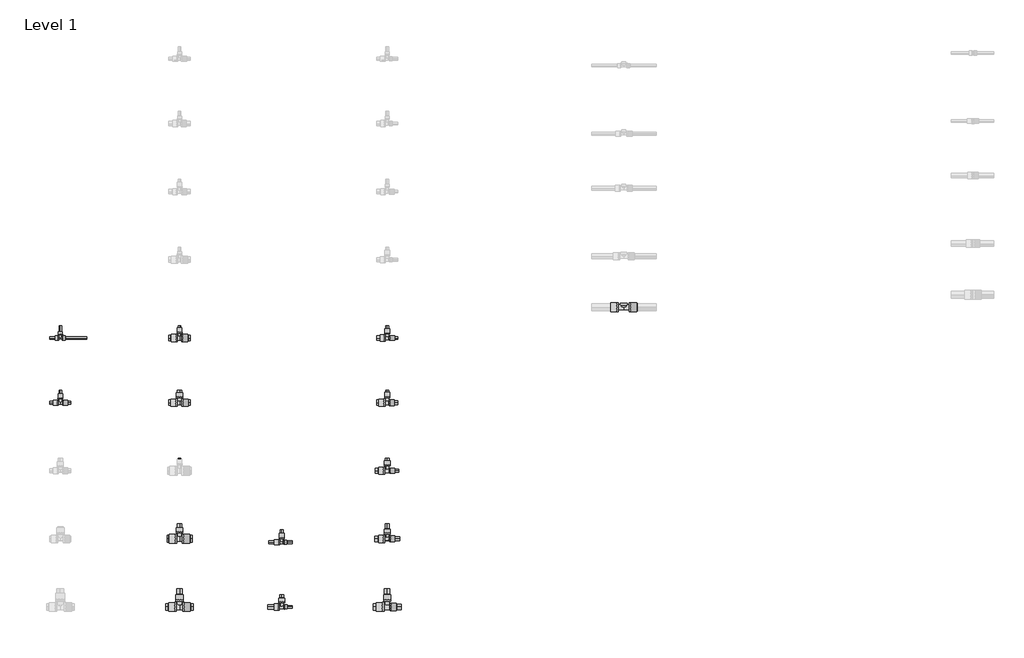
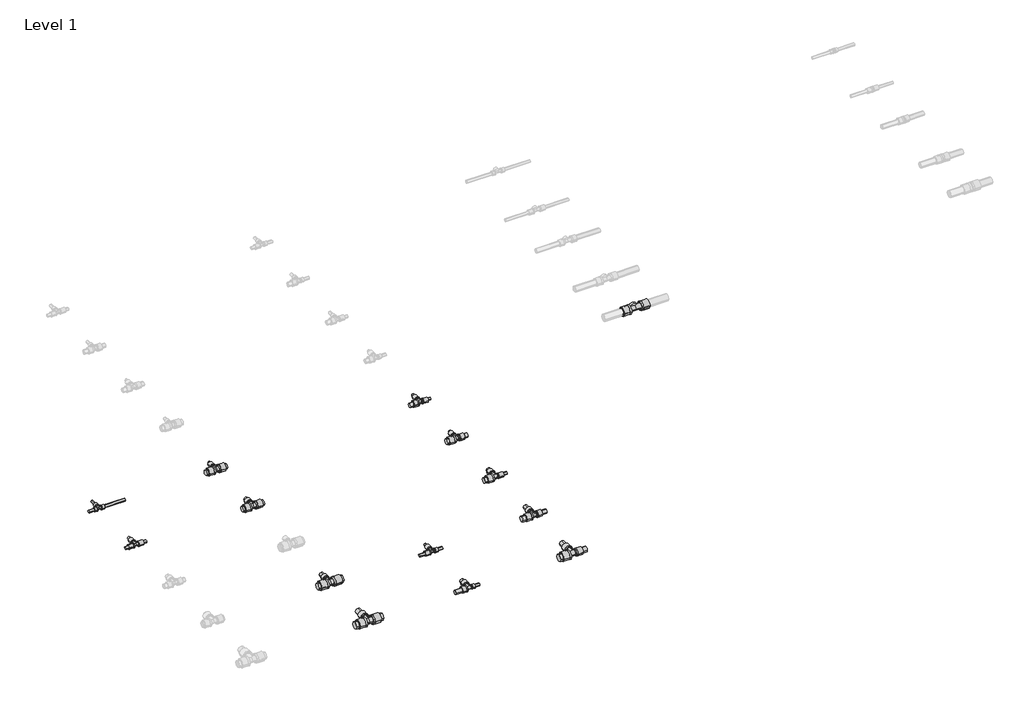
# One storey, part 19 of 78: 40 pipe segments, 14 pipe fittings.
"""IFC4 building model written with IfcOpenShell, lengths in millimetres."""

from ifc_helpers import new_model, si_unit, point, frame, frame_2d, origin, place, context, project, spatial, circle_curve, trimmed, segment, composite_curve, outline, extrude, transform, mapped, element, save
from components import pipe_fitting_d1609a9c, pipe_fitting_bded02bd, pipe_fitting_7435f538, pipe_fitting_b40a3e3c, pipe_fitting_15165f03, pipe_fitting_7e3be5b8, pipe_fitting_19df1a9e, pipe_fitting_16730f07, pipe_fitting_5d5decb5, pipe_fitting_f2600fd0, pipe_fitting_8d489ee2, pipe_fitting_c4e8b4db, pipe_fitting_757463f1, pipe_fitting_00caae07

model = new_model("IFC4")

# Units and contexts
model_context = context("Model", 3, world=origin())
ifc_project = project(units=[si_unit("LENGTHUNIT", "METRE", prefix="MILLI")], contexts=[model_context])

# Site, building, storey
site = spatial("IfcSite", under=ifc_project)
building = spatial("IfcBuilding", under=site)
storey = spatial("IfcBuildingStorey", under=building, Name="Level 1", Elevation=0.0)

# Pipe fittings
placement = place(None, origin())
pipe_fitting_shape = pipe_fitting_d1609a9c(model_context)
element("IfcPipeFitting", 1, ObjectType="FASTLOC_T-piece_LX : FSL T-Piece LX IT", at=placement, inside=storey, context=model_context, shape_type="MappedRepresentation", body=[
    mapped(pipe_fitting_shape, transform((24126.7498072, -20380.2405791, 0.0), x_axis=(1.0, 0.0, 0.0), y_axis=(0.0, 1.0, 0.0), z_axis=(0.0, 0.0, 1.0))),
])
pipe_fitting_2_shape = pipe_fitting_bded02bd(model_context)
element("IfcPipeFitting", 2, ObjectType="FASTLOC_T-piece_LX : FSL T-Piece LX IT", at=placement, inside=storey, context=model_context, shape_type="MappedRepresentation", body=[
    mapped(pipe_fitting_2_shape, transform((24126.7498072, -20760.2405791, 0.0), x_axis=(1.0, 0.0, 0.0), y_axis=(0.0, 1.0, 0.0), z_axis=(0.0, 0.0, 1.0))),
])
pipe_fitting_3_shape = pipe_fitting_7435f538(model_context)
element("IfcPipeFitting", 3, ObjectType="FASTLOC_T-piece_LX : FSL T-Piece LX IT", at=placement, inside=storey, context=model_context, shape_type="MappedRepresentation", body=[
    mapped(pipe_fitting_3_shape, transform((24826.7498072, -20380.2405791, 0.0), x_axis=(1.0, 0.0, 0.0), y_axis=(0.0, 1.0, 0.0), z_axis=(0.0, 0.0, 1.0))),
])
pipe_fitting_4_shape = pipe_fitting_b40a3e3c(model_context)
element("IfcPipeFitting", 4, ObjectType="FASTLOC_T-piece_LX : FSL T-Piece LX IT", at=placement, inside=storey, context=model_context, shape_type="MappedRepresentation", body=[
    mapped(pipe_fitting_4_shape, transform((24826.7498072, -20760.2405791, 0.0), x_axis=(1.0, 0.0, 0.0), y_axis=(0.0, 1.0, 0.0), z_axis=(0.0, 0.0, 1.0))),
])
pipe_fitting_5_shape = pipe_fitting_15165f03(model_context)
element("IfcPipeFitting", 5, ObjectType="FASTLOC_T-piece_LX : FSL T-Piece LX IT", at=placement, inside=storey, context=model_context, shape_type="MappedRepresentation", body=[
    mapped(pipe_fitting_5_shape, transform((24826.7498072, -21560.2405791, 0.0), x_axis=(1.0, 0.0, 0.0), y_axis=(0.0, 1.0, 0.0), z_axis=(0.0, 0.0, 1.0))),
])
pipe_fitting_6_shape = pipe_fitting_7e3be5b8(model_context)
element("IfcPipeFitting", 6, ObjectType="FASTLOC_T-piece_LX : FSL T-Piece LX IT", at=placement, inside=storey, context=model_context, shape_type="MappedRepresentation", body=[
    mapped(pipe_fitting_6_shape, transform((24826.7498072, -21960.2405791, 0.0), x_axis=(1.0, 0.0, 0.0), y_axis=(0.0, 1.0, 0.0), z_axis=(0.0, 0.0, 1.0))),
])
pipe_fitting_7_shape = pipe_fitting_19df1a9e(model_context)
element("IfcPipeFitting", 7, ObjectType="FASTLOC_T-piece_LX : FSL T-Piece LX IT", at=placement, inside=storey, context=model_context, shape_type="MappedRepresentation", body=[
    mapped(pipe_fitting_7_shape, transform((25426.7498072, -21580.2405791, 0.0), x_axis=(1.0, 0.0, 0.0), y_axis=(0.0, 1.0, 0.0), z_axis=(0.0, 0.0, 1.0))),
])
pipe_fitting_8_shape = pipe_fitting_16730f07(model_context)
element("IfcPipeFitting", 8, ObjectType="FASTLOC_T-piece_LX : FSL T-Piece LX IT", at=placement, inside=storey, context=model_context, shape_type="MappedRepresentation", body=[
    mapped(pipe_fitting_8_shape, transform((25426.7498072, -21960.2405791, 0.0), x_axis=(1.0, 0.0, 0.0), y_axis=(0.0, 1.0, 0.0), z_axis=(0.0, 0.0, 1.0))),
])
pipe_fitting_9_shape = pipe_fitting_5d5decb5(model_context)
element("IfcPipeFitting", 9, ObjectType="FASTLOC_T-piece_LX : FSL T-Piece LX IT", at=placement, inside=storey, context=model_context, shape_type="MappedRepresentation", body=[
    mapped(pipe_fitting_9_shape, transform((26046.7498072, -20380.2405791, 0.0), x_axis=(1.0, 0.0, 0.0), y_axis=(0.0, 1.0, 0.0), z_axis=(0.0, 0.0, 1.0))),
])
pipe_fitting_10_shape = pipe_fitting_f2600fd0(model_context)
element("IfcPipeFitting", 10, ObjectType="FASTLOC_T-piece_LX : FSL T-Piece LX IT", at=placement, inside=storey, context=model_context, shape_type="MappedRepresentation", body=[
    mapped(pipe_fitting_10_shape, transform((26046.7498072, -20760.2405791, 0.0), x_axis=(1.0, 0.0, 0.0), y_axis=(0.0, 1.0, 0.0), z_axis=(0.0, 0.0, 1.0))),
])
pipe_fitting_11_shape = pipe_fitting_8d489ee2(model_context)
element("IfcPipeFitting", 11, ObjectType="FASTLOC_T-piece_LX : FSL T-Piece LX IT", at=placement, inside=storey, context=model_context, shape_type="MappedRepresentation", body=[
    mapped(pipe_fitting_11_shape, transform((26046.7498072, -21160.2405791, 0.0), x_axis=(1.0, 0.0, 0.0), y_axis=(0.0, 1.0, 0.0), z_axis=(0.0, 0.0, 1.0))),
])
pipe_fitting_12_shape = pipe_fitting_c4e8b4db(model_context)
element("IfcPipeFitting", 12, ObjectType="FASTLOC_T-piece_LX : FSL T-Piece LX IT", at=placement, inside=storey, context=model_context, shape_type="MappedRepresentation", body=[
    mapped(pipe_fitting_12_shape, transform((26046.7498072, -21560.2405791, 0.0), x_axis=(1.0, 0.0, 0.0), y_axis=(0.0, 1.0, 0.0), z_axis=(0.0, 0.0, 1.0))),
])
pipe_fitting_13_shape = pipe_fitting_757463f1(model_context)
element("IfcPipeFitting", 13, ObjectType="FASTLOC_T-piece_LX : FSL T-Piece LX IT", at=placement, inside=storey, context=model_context, shape_type="MappedRepresentation", body=[
    mapped(pipe_fitting_13_shape, transform((26046.7498072, -21960.2405791, 0.0), x_axis=(1.0, 0.0, 0.0), y_axis=(0.0, 1.0, 0.0), z_axis=(0.0, 0.0, 1.0))),
])
pipe_fitting_14_shape = pipe_fitting_00caae07(model_context)
element("IfcPipeFitting", 14, ObjectType="FASTLOC_T-piece internal thread LX : FSL T thread LX IT", at=placement, inside=storey, context=model_context, shape_type="MappedRepresentation", body=[
    mapped(pipe_fitting_14_shape, transform((27436.609585, -20199.8272875, 0.0), x_axis=(1.0, 0.0, 0.0), y_axis=(0.0, 1.0, 0.0), z_axis=(0.0, 0.0, 1.0))),
])

# Pipe segments
element("IfcPipeSegment", 15, ObjectType="FASTLOC LX ML IT bar", at=placement, inside=storey, context=model_context, shape_type="SweptSolid", body=[
    extrude(outline(composite_curve([segment(trimmed(circle_curve(frame_2d((-20380.2405791, 0.0)), 8.0), [point((-20372.2405791, 0.0))], [point((-20380.2405791, -8.0))], False, "CARTESIAN"), True, "CONTINUOUS"), segment(trimmed(circle_curve(frame_2d((-20380.2405791, 0.0)), 8.0), [point((-20380.2405791, -8.0))], [point((-20388.2405791, 0.0))], False, "CARTESIAN"), True, "CONTINUOUS"), segment(trimmed(circle_curve(frame_2d((-20380.2405791, 0.0)), 8.0), [point((-20388.2405791, 0.0))], [point((-20380.2405791, 8.0))], False, "CARTESIAN"), True, "CONTINUOUS"), segment(trimmed(circle_curve(frame_2d((-20380.2405791, 0.0)), 8.0), [point((-20380.2405791, 8.0))], [point((-20372.2405791, 0.0))], False, "CARTESIAN"), True, "CONTINUOUS")], self_intersect=False)), frame((24064.7498072, 0.0, 0.0), z_axis=(1.0, 0.0, 0.0), x_axis=(0.0, 1.0, 0.0)), (0.0, 0.0, 1.0), 47.0),
])
element("IfcPipeSegment", 16, ObjectType="FASTLOC LX ML IT bar", at=placement, inside=storey, context=model_context, shape_type="SweptSolid", body=[
    extrude(outline(composite_curve([segment(trimmed(circle_curve(frame_2d((0.0, 24126.7498072)), 8.0), [point((0.0, 24134.7498072))], [point((8.0, 24126.7498072))], False, "CARTESIAN"), True, "CONTINUOUS"), segment(trimmed(circle_curve(frame_2d((0.0, 24126.7498072)), 8.0), [point((8.0, 24126.7498072))], [point((0.0, 24118.7498072))], False, "CARTESIAN"), True, "CONTINUOUS"), segment(trimmed(circle_curve(frame_2d((0.0, 24126.7498072)), 8.0), [point((0.0, 24118.7498072))], [point((-8.0, 24126.7498072))], False, "CARTESIAN"), True, "CONTINUOUS"), segment(trimmed(circle_curve(frame_2d((0.0, 24126.7498072)), 8.0), [point((-8.0, 24126.7498072))], [point((0.0, 24134.7498072))], False, "CARTESIAN"), True, "CONTINUOUS")], self_intersect=False)), frame((0.0, -20358.1405791, 0.0), z_axis=(0.0, 1.0, 0.0), x_axis=(0.0, 0.0, 1.0)), (0.0, 0.0, 1.0), 50.2),
])
element("IfcPipeSegment", 17, ObjectType="FASTLOC LX ML IT bar", at=placement, inside=storey, context=model_context, shape_type="SweptSolid", body=[
    extrude(outline(composite_curve([segment(trimmed(circle_curve(frame_2d((-20760.2405791, 0.0)), 8.0), [point((-20768.2405791, 0.0))], [point((-20760.2405791, 8.0))], False, "CARTESIAN"), True, "CONTINUOUS"), segment(trimmed(circle_curve(frame_2d((-20760.2405791, 0.0)), 8.0), [point((-20760.2405791, 8.0))], [point((-20752.2405791, 0.0))], False, "CARTESIAN"), True, "CONTINUOUS"), segment(trimmed(circle_curve(frame_2d((-20760.2405791, 0.0)), 8.0), [point((-20752.2405791, 0.0))], [point((-20760.2405791, -8.0))], False, "CARTESIAN"), True, "CONTINUOUS"), segment(trimmed(circle_curve(frame_2d((-20760.2405791, 0.0)), 8.0), [point((-20760.2405791, -8.0))], [point((-20768.2405791, 0.0))], False, "CARTESIAN"), True, "CONTINUOUS")], self_intersect=False)), frame((24143.9498072, 0.0, 0.0), z_axis=(1.0, 0.0, 0.0), x_axis=(0.0, 1.0, 0.0)), (0.0, 0.0, 1.0), 44.8),
])
element("IfcPipeSegment", 18, ObjectType="FASTLOC LX ML IT bar", at=placement, inside=storey, context=model_context, shape_type="SweptSolid", body=[
    extrude(outline(composite_curve([segment(trimmed(circle_curve(frame_2d((-20760.2405791, 0.0)), 8.0), [point((-20752.2405791, 0.0))], [point((-20760.2405791, -8.0))], False, "CARTESIAN"), True, "CONTINUOUS"), segment(trimmed(circle_curve(frame_2d((-20760.2405791, 0.0)), 8.0), [point((-20760.2405791, -8.0))], [point((-20768.2405791, 0.0))], False, "CARTESIAN"), True, "CONTINUOUS"), segment(trimmed(circle_curve(frame_2d((-20760.2405791, 0.0)), 8.0), [point((-20768.2405791, 0.0))], [point((-20760.2405791, 8.0))], False, "CARTESIAN"), True, "CONTINUOUS"), segment(trimmed(circle_curve(frame_2d((-20760.2405791, 0.0)), 8.0), [point((-20760.2405791, 8.0))], [point((-20752.2405791, 0.0))], False, "CARTESIAN"), True, "CONTINUOUS")], self_intersect=False)), frame((24064.7498072, 0.0, 0.0), z_axis=(1.0, 0.0, 0.0), x_axis=(0.0, 1.0, 0.0)), (0.0, 0.0, 1.0), 44.8),
])
element("IfcPipeSegment", 19, ObjectType="FASTLOC LX ML IT bar", at=placement, inside=storey, context=model_context, shape_type="SweptSolid", body=[
    extrude(outline(composite_curve([segment(trimmed(circle_curve(frame_2d((0.0, 24126.7498072)), 8.0), [point((0.0, 24134.7498072))], [point((8.0, 24126.7498072))], False, "CARTESIAN"), True, "CONTINUOUS"), segment(trimmed(circle_curve(frame_2d((0.0, 24126.7498072)), 8.0), [point((8.0, 24126.7498072))], [point((0.0, 24118.7498072))], False, "CARTESIAN"), True, "CONTINUOUS"), segment(trimmed(circle_curve(frame_2d((0.0, 24126.7498072)), 8.0), [point((0.0, 24118.7498072))], [point((-8.0, 24126.7498072))], False, "CARTESIAN"), True, "CONTINUOUS"), segment(trimmed(circle_curve(frame_2d((0.0, 24126.7498072)), 8.0), [point((-8.0, 24126.7498072))], [point((0.0, 24134.7498072))], False, "CARTESIAN"), True, "CONTINUOUS")], self_intersect=False)), frame((0.0, -20733.8405791, 0.0), z_axis=(0.0, 1.0, 0.0), x_axis=(0.0, 0.0, 1.0)), (0.0, 0.0, 1.0), 45.9),
])
element("IfcPipeSegment", 20, ObjectType="FASTLOC LX ML IT bar", at=placement, inside=storey, context=model_context, shape_type="SweptSolid", body=[
    extrude(outline(composite_curve([segment(trimmed(circle_curve(frame_2d((-20380.2405791, 0.0)), 16.0), [point((-20396.2405791, 0.0))], [point((-20380.2405791, 16.0))], False, "CARTESIAN"), True, "CONTINUOUS"), segment(trimmed(circle_curve(frame_2d((-20380.2405791, 0.0)), 16.0), [point((-20380.2405791, 16.0))], [point((-20364.2405791, 0.0))], False, "CARTESIAN"), True, "CONTINUOUS"), segment(trimmed(circle_curve(frame_2d((-20380.2405791, 0.0)), 16.0), [point((-20364.2405791, 0.0))], [point((-20380.2405791, -16.0))], False, "CARTESIAN"), True, "CONTINUOUS"), segment(trimmed(circle_curve(frame_2d((-20380.2405791, 0.0)), 16.0), [point((-20380.2405791, -16.0))], [point((-20396.2405791, 0.0))], False, "CARTESIAN"), True, "CONTINUOUS")], self_intersect=False)), frame((24846.9498072, 0.0, 0.0), z_axis=(1.0, 0.0, 0.0), x_axis=(0.0, 1.0, 0.0)), (0.0, 0.0, 1.0), 41.8),
])
element("IfcPipeSegment", 21, ObjectType="FASTLOC LX ML IT bar", at=placement, inside=storey, context=model_context, shape_type="SweptSolid", body=[
    extrude(outline(composite_curve([segment(trimmed(circle_curve(frame_2d((-20380.2405791, 0.0)), 16.0), [point((-20364.2405791, 0.0))], [point((-20380.2405791, -16.0))], False, "CARTESIAN"), True, "CONTINUOUS"), segment(trimmed(circle_curve(frame_2d((-20380.2405791, 0.0)), 16.0), [point((-20380.2405791, -16.0))], [point((-20396.2405791, 0.0))], False, "CARTESIAN"), True, "CONTINUOUS"), segment(trimmed(circle_curve(frame_2d((-20380.2405791, 0.0)), 16.0), [point((-20396.2405791, 0.0))], [point((-20380.2405791, 16.0))], False, "CARTESIAN"), True, "CONTINUOUS"), segment(trimmed(circle_curve(frame_2d((-20380.2405791, 0.0)), 16.0), [point((-20380.2405791, 16.0))], [point((-20364.2405791, 0.0))], False, "CARTESIAN"), True, "CONTINUOUS")], self_intersect=False)), frame((24764.7498072, 0.0, 0.0), z_axis=(1.0, 0.0, 0.0), x_axis=(0.0, 1.0, 0.0)), (0.0, 0.0, 1.0), 41.8),
])
element("IfcPipeSegment", 22, ObjectType="FASTLOC LX ML IT bar", at=placement, inside=storey, context=model_context, shape_type="SweptSolid", body=[
    extrude(outline(composite_curve([segment(trimmed(circle_curve(frame_2d((0.0, 24826.7498072)), 8.0), [point((0.0, 24834.7498072))], [point((8.0, 24826.7498072))], False, "CARTESIAN"), True, "CONTINUOUS"), segment(trimmed(circle_curve(frame_2d((0.0, 24826.7498072)), 8.0), [point((8.0, 24826.7498072))], [point((0.0, 24818.7498072))], False, "CARTESIAN"), True, "CONTINUOUS"), segment(trimmed(circle_curve(frame_2d((0.0, 24826.7498072)), 8.0), [point((0.0, 24818.7498072))], [point((-8.0, 24826.7498072))], False, "CARTESIAN"), True, "CONTINUOUS"), segment(trimmed(circle_curve(frame_2d((0.0, 24826.7498072)), 8.0), [point((-8.0, 24826.7498072))], [point((0.0, 24834.7498072))], False, "CARTESIAN"), True, "CONTINUOUS")], self_intersect=False)), frame((0.0, -20346.2405791, 0.0), z_axis=(0.0, 1.0, 0.0), x_axis=(0.0, 0.0, 1.0)), (0.0, 0.0, 1.0), 38.3),
])
element("IfcPipeSegment", 23, ObjectType="FASTLOC LX ML IT bar", at=placement, inside=storey, context=model_context, shape_type="SweptSolid", body=[
    extrude(outline(composite_curve([segment(trimmed(circle_curve(frame_2d((-20760.2405791, 0.0)), 16.0), [point((-20776.2405791, 0.0))], [point((-20760.2405791, 16.0))], False, "CARTESIAN"), True, "CONTINUOUS"), segment(trimmed(circle_curve(frame_2d((-20760.2405791, 0.0)), 16.0), [point((-20760.2405791, 16.0))], [point((-20744.2405791, 0.0))], False, "CARTESIAN"), True, "CONTINUOUS"), segment(trimmed(circle_curve(frame_2d((-20760.2405791, 0.0)), 16.0), [point((-20744.2405791, 0.0))], [point((-20760.2405791, -16.0))], False, "CARTESIAN"), True, "CONTINUOUS"), segment(trimmed(circle_curve(frame_2d((-20760.2405791, 0.0)), 16.0), [point((-20760.2405791, -16.0))], [point((-20776.2405791, 0.0))], False, "CARTESIAN"), True, "CONTINUOUS")], self_intersect=False)), frame((24848.7498072, 0.0, 0.0), z_axis=(1.0, 0.0, 0.0), x_axis=(0.0, 1.0, 0.0)), (0.0, 0.0, 1.0), 40.0),
])
element("IfcPipeSegment", 24, ObjectType="FASTLOC LX ML IT bar", at=placement, inside=storey, context=model_context, shape_type="SweptSolid", body=[
    extrude(outline(composite_curve([segment(trimmed(circle_curve(frame_2d((-20760.2405791, 0.0)), 16.0), [point((-20744.2405791, 0.0))], [point((-20760.2405791, -16.0))], False, "CARTESIAN"), True, "CONTINUOUS"), segment(trimmed(circle_curve(frame_2d((-20760.2405791, 0.0)), 16.0), [point((-20760.2405791, -16.0))], [point((-20776.2405791, 0.0))], False, "CARTESIAN"), True, "CONTINUOUS"), segment(trimmed(circle_curve(frame_2d((-20760.2405791, 0.0)), 16.0), [point((-20776.2405791, 0.0))], [point((-20760.2405791, 16.0))], False, "CARTESIAN"), True, "CONTINUOUS"), segment(trimmed(circle_curve(frame_2d((-20760.2405791, 0.0)), 16.0), [point((-20760.2405791, 16.0))], [point((-20744.2405791, 0.0))], False, "CARTESIAN"), True, "CONTINUOUS")], self_intersect=False)), frame((24764.7498072, 0.0, 0.0), z_axis=(1.0, 0.0, 0.0), x_axis=(0.0, 1.0, 0.0)), (0.0, 0.0, 1.0), 40.0),
])
element("IfcPipeSegment", 25, ObjectType="FASTLOC LX ML IT bar", at=placement, inside=storey, context=model_context, shape_type="SweptSolid", body=[
    extrude(outline(composite_curve([segment(trimmed(circle_curve(frame_2d((0.0, 24826.7498072)), 12.5), [point((0.0, 24839.2498072))], [point((12.5, 24826.7498072))], False, "CARTESIAN"), True, "CONTINUOUS"), segment(trimmed(circle_curve(frame_2d((0.0, 24826.7498072)), 12.5), [point((12.5, 24826.7498072))], [point((0.0, 24814.2498072))], False, "CARTESIAN"), True, "CONTINUOUS"), segment(trimmed(circle_curve(frame_2d((0.0, 24826.7498072)), 12.5), [point((0.0, 24814.2498072))], [point((-12.5, 24826.7498072))], False, "CARTESIAN"), True, "CONTINUOUS"), segment(trimmed(circle_curve(frame_2d((0.0, 24826.7498072)), 12.5), [point((-12.5, 24826.7498072))], [point((0.0, 24839.2498072))], False, "CARTESIAN"), True, "CONTINUOUS")], self_intersect=False)), frame((0.0, -20725.8405791, 0.0), z_axis=(0.0, 1.0, 0.0), x_axis=(0.0, 0.0, 1.0)), (0.0, 0.0, 1.0), 37.9),
])
element("IfcPipeSegment", 26, ObjectType="FASTLOC LX ML IT bar", at=placement, inside=storey, context=model_context, shape_type="SweptSolid", body=[
    extrude(outline(composite_curve([segment(trimmed(circle_curve(frame_2d((0.0, 24826.7498072)), 8.0), [point((0.0, 24834.7498072))], [point((8.0, 24826.7498072))], False, "CARTESIAN"), True, "CONTINUOUS"), segment(trimmed(circle_curve(frame_2d((0.0, 24826.7498072)), 8.0), [point((8.0, 24826.7498072))], [point((0.0, 24818.7498072))], False, "CARTESIAN"), True, "CONTINUOUS"), segment(trimmed(circle_curve(frame_2d((0.0, 24826.7498072)), 8.0), [point((0.0, 24818.7498072))], [point((-8.0, 24826.7498072))], False, "CARTESIAN"), True, "CONTINUOUS"), segment(trimmed(circle_curve(frame_2d((0.0, 24826.7498072)), 8.0), [point((-8.0, 24826.7498072))], [point((0.0, 24834.7498072))], False, "CARTESIAN"), True, "CONTINUOUS")], self_intersect=False)), frame((0.0, -21119.7405791, 0.0), z_axis=(0.0, 1.0, 0.0), x_axis=(0.0, 0.0, 1.0)), (0.0, 0.0, 1.0), 31.8),
])
element("IfcPipeSegment", 27, ObjectType="FASTLOC LX ML IT bar", at=placement, inside=storey, context=model_context, shape_type="SweptSolid", body=[
    extrude(outline(composite_curve([segment(trimmed(circle_curve(frame_2d((-21560.2405791, 0.0)), 20.0), [point((-21580.2405791, 0.0))], [point((-21560.2405791, 20.0))], False, "CARTESIAN"), True, "CONTINUOUS"), segment(trimmed(circle_curve(frame_2d((-21560.2405791, 0.0)), 20.0), [point((-21560.2405791, 20.0))], [point((-21540.2405791, 0.0))], False, "CARTESIAN"), True, "CONTINUOUS"), segment(trimmed(circle_curve(frame_2d((-21560.2405791, 0.0)), 20.0), [point((-21540.2405791, 0.0))], [point((-21560.2405791, -20.0))], False, "CARTESIAN"), True, "CONTINUOUS"), segment(trimmed(circle_curve(frame_2d((-21560.2405791, 0.0)), 20.0), [point((-21560.2405791, -20.0))], [point((-21580.2405791, 0.0))], False, "CARTESIAN"), True, "CONTINUOUS")], self_intersect=False)), frame((24852.5498072, 0.0, 0.0), z_axis=(1.0, 0.0, 0.0), x_axis=(0.0, 1.0, 0.0)), (0.0, 0.0, 1.0), 47.8),
])
element("IfcPipeSegment", 28, ObjectType="FASTLOC LX ML IT bar", at=placement, inside=storey, context=model_context, shape_type="SweptSolid", body=[
    extrude(outline(composite_curve([segment(trimmed(circle_curve(frame_2d((-21560.2405791, 0.0)), 20.0), [point((-21540.2405791, 0.0))], [point((-21560.2405791, -20.0))], False, "CARTESIAN"), True, "CONTINUOUS"), segment(trimmed(circle_curve(frame_2d((-21560.2405791, 0.0)), 20.0), [point((-21560.2405791, -20.0))], [point((-21580.2405791, 0.0))], False, "CARTESIAN"), True, "CONTINUOUS"), segment(trimmed(circle_curve(frame_2d((-21560.2405791, 0.0)), 20.0), [point((-21580.2405791, 0.0))], [point((-21560.2405791, 20.0))], False, "CARTESIAN"), True, "CONTINUOUS"), segment(trimmed(circle_curve(frame_2d((-21560.2405791, 0.0)), 20.0), [point((-21560.2405791, 20.0))], [point((-21540.2405791, 0.0))], False, "CARTESIAN"), True, "CONTINUOUS")], self_intersect=False)), frame((24753.1498072, 0.0, 0.0), z_axis=(1.0, 0.0, 0.0), x_axis=(0.0, 1.0, 0.0)), (0.0, 0.0, 1.0), 47.8),
])
element("IfcPipeSegment", 29, ObjectType="FASTLOC LX ML IT bar", at=placement, inside=storey, context=model_context, shape_type="SweptSolid", body=[
    extrude(outline(composite_curve([segment(trimmed(circle_curve(frame_2d((0.0, 24826.7498072)), 12.5), [point((0.0, 24839.2498072))], [point((12.5, 24826.7498072))], False, "CARTESIAN"), True, "CONTINUOUS"), segment(trimmed(circle_curve(frame_2d((0.0, 24826.7498072)), 12.5), [point((12.5, 24826.7498072))], [point((0.0, 24814.2498072))], False, "CARTESIAN"), True, "CONTINUOUS"), segment(trimmed(circle_curve(frame_2d((0.0, 24826.7498072)), 12.5), [point((0.0, 24814.2498072))], [point((-12.5, 24826.7498072))], False, "CARTESIAN"), True, "CONTINUOUS"), segment(trimmed(circle_curve(frame_2d((0.0, 24826.7498072)), 12.5), [point((-12.5, 24826.7498072))], [point((0.0, 24839.2498072))], False, "CARTESIAN"), True, "CONTINUOUS")], self_intersect=False)), frame((0.0, -21519.2405791, 0.0), z_axis=(0.0, 1.0, 0.0), x_axis=(0.0, 0.0, 1.0)), (0.0, 0.0, 1.0), 46.8),
])
element("IfcPipeSegment", 30, ObjectType="FASTLOC LX ML IT bar", at=placement, inside=storey, context=model_context, shape_type="SweptSolid", body=[
    extrude(outline(composite_curve([segment(trimmed(circle_curve(frame_2d((-21960.2405791, 0.0)), 20.0), [point((-21980.2405791, 0.0))], [point((-21960.2405791, 20.0))], False, "CARTESIAN"), True, "CONTINUOUS"), segment(trimmed(circle_curve(frame_2d((-21960.2405791, 0.0)), 20.0), [point((-21960.2405791, 20.0))], [point((-21940.2405791, 0.0))], False, "CARTESIAN"), True, "CONTINUOUS"), segment(trimmed(circle_curve(frame_2d((-21960.2405791, 0.0)), 20.0), [point((-21940.2405791, 0.0))], [point((-21960.2405791, -20.0))], False, "CARTESIAN"), True, "CONTINUOUS"), segment(trimmed(circle_curve(frame_2d((-21960.2405791, 0.0)), 20.0), [point((-21960.2405791, -20.0))], [point((-21980.2405791, 0.0))], False, "CARTESIAN"), True, "CONTINUOUS")], self_intersect=False)), frame((24855.3498072, 0.0, 0.0), z_axis=(1.0, 0.0, 0.0), x_axis=(0.0, 1.0, 0.0)), (0.0, 0.0, 1.0), 52.8),
])
element("IfcPipeSegment", 31, ObjectType="FASTLOC LX ML IT bar", at=placement, inside=storey, context=model_context, shape_type="SweptSolid", body=[
    extrude(outline(composite_curve([segment(trimmed(circle_curve(frame_2d((-21960.2405791, 0.0)), 20.0), [point((-21940.2405791, 0.0))], [point((-21960.2405791, -20.0))], False, "CARTESIAN"), True, "CONTINUOUS"), segment(trimmed(circle_curve(frame_2d((-21960.2405791, 0.0)), 20.0), [point((-21960.2405791, -20.0))], [point((-21980.2405791, 0.0))], False, "CARTESIAN"), True, "CONTINUOUS"), segment(trimmed(circle_curve(frame_2d((-21960.2405791, 0.0)), 20.0), [point((-21980.2405791, 0.0))], [point((-21960.2405791, 20.0))], False, "CARTESIAN"), True, "CONTINUOUS"), segment(trimmed(circle_curve(frame_2d((-21960.2405791, 0.0)), 20.0), [point((-21960.2405791, 20.0))], [point((-21940.2405791, 0.0))], False, "CARTESIAN"), True, "CONTINUOUS")], self_intersect=False)), frame((24745.3498072, 0.0, 0.0), z_axis=(1.0, 0.0, 0.0), x_axis=(0.0, 1.0, 0.0)), (0.0, 0.0, 1.0), 52.8),
])
element("IfcPipeSegment", 32, ObjectType="FASTLOC LX ML IT bar", at=placement, inside=storey, context=model_context, shape_type="SweptSolid", body=[
    extrude(outline(composite_curve([segment(trimmed(circle_curve(frame_2d((0.0, 24826.7498072)), 16.0), [point((0.0, 24842.7498072))], [point((16.0, 24826.7498072))], False, "CARTESIAN"), True, "CONTINUOUS"), segment(trimmed(circle_curve(frame_2d((0.0, 24826.7498072)), 16.0), [point((16.0, 24826.7498072))], [point((0.0, 24810.7498072))], False, "CARTESIAN"), True, "CONTINUOUS"), segment(trimmed(circle_curve(frame_2d((0.0, 24826.7498072)), 16.0), [point((0.0, 24810.7498072))], [point((-16.0, 24826.7498072))], False, "CARTESIAN"), True, "CONTINUOUS"), segment(trimmed(circle_curve(frame_2d((0.0, 24826.7498072)), 16.0), [point((-16.0, 24826.7498072))], [point((0.0, 24842.7498072))], False, "CARTESIAN"), True, "CONTINUOUS")], self_intersect=False)), frame((0.0, -21917.4405791, 0.0), z_axis=(0.0, 1.0, 0.0), x_axis=(0.0, 0.0, 1.0)), (0.0, 0.0, 1.0), 64.8),
])
element("IfcPipeSegment", 33, ObjectType="FASTLOC LX ML IT bar", at=placement, inside=storey, context=model_context, shape_type="SweptSolid", body=[
    extrude(outline(composite_curve([segment(trimmed(circle_curve(frame_2d((-21580.2405791, 0.0)), 8.0), [point((-21588.2405791, 0.0))], [point((-21580.2405791, 8.0))], False, "CARTESIAN"), True, "CONTINUOUS"), segment(trimmed(circle_curve(frame_2d((-21580.2405791, 0.0)), 8.0), [point((-21580.2405791, 8.0))], [point((-21572.2405791, 0.0))], False, "CARTESIAN"), True, "CONTINUOUS"), segment(trimmed(circle_curve(frame_2d((-21580.2405791, 0.0)), 8.0), [point((-21572.2405791, 0.0))], [point((-21580.2405791, -8.0))], False, "CARTESIAN"), True, "CONTINUOUS"), segment(trimmed(circle_curve(frame_2d((-21580.2405791, 0.0)), 8.0), [point((-21580.2405791, -8.0))], [point((-21588.2405791, 0.0))], False, "CARTESIAN"), True, "CONTINUOUS")], self_intersect=False)), frame((25443.7498072, 0.0, 0.0), z_axis=(1.0, 0.0, 0.0), x_axis=(0.0, 1.0, 0.0)), (0.0, 0.0, 1.0), 45.0),
])
element("IfcPipeSegment", 34, ObjectType="FASTLOC LX ML IT bar", at=placement, inside=storey, context=model_context, shape_type="SweptSolid", body=[
    extrude(outline(composite_curve([segment(trimmed(circle_curve(frame_2d((-21580.2405791, 0.0)), 8.0), [point((-21572.2405791, 0.0))], [point((-21580.2405791, -8.0))], False, "CARTESIAN"), True, "CONTINUOUS"), segment(trimmed(circle_curve(frame_2d((-21580.2405791, 0.0)), 8.0), [point((-21580.2405791, -8.0))], [point((-21588.2405791, 0.0))], False, "CARTESIAN"), True, "CONTINUOUS"), segment(trimmed(circle_curve(frame_2d((-21580.2405791, 0.0)), 8.0), [point((-21588.2405791, 0.0))], [point((-21580.2405791, 8.0))], False, "CARTESIAN"), True, "CONTINUOUS"), segment(trimmed(circle_curve(frame_2d((-21580.2405791, 0.0)), 8.0), [point((-21580.2405791, 8.0))], [point((-21572.2405791, 0.0))], False, "CARTESIAN"), True, "CONTINUOUS")], self_intersect=False)), frame((25349.3498072, 0.0, 0.0), z_axis=(1.0, 0.0, 0.0), x_axis=(0.0, 1.0, 0.0)), (0.0, 0.0, 1.0), 60.0),
])
element("IfcPipeSegment", 35, ObjectType="FASTLOC LX ML IT bar", at=placement, inside=storey, context=model_context, shape_type="SweptSolid", body=[
    extrude(outline(composite_curve([segment(trimmed(circle_curve(frame_2d((0.0, 25426.7498072)), 8.0), [point((0.0, 25434.7498072))], [point((8.0, 25426.7498072))], False, "CARTESIAN"), True, "CONTINUOUS"), segment(trimmed(circle_curve(frame_2d((0.0, 25426.7498072)), 8.0), [point((8.0, 25426.7498072))], [point((0.0, 25418.7498072))], False, "CARTESIAN"), True, "CONTINUOUS"), segment(trimmed(circle_curve(frame_2d((0.0, 25426.7498072)), 8.0), [point((0.0, 25418.7498072))], [point((-8.0, 25426.7498072))], False, "CARTESIAN"), True, "CONTINUOUS"), segment(trimmed(circle_curve(frame_2d((0.0, 25426.7498072)), 8.0), [point((-8.0, 25426.7498072))], [point((0.0, 25434.7498072))], False, "CARTESIAN"), True, "CONTINUOUS")], self_intersect=False)), frame((0.0, -21553.8405791, 0.0), z_axis=(0.0, 1.0, 0.0), x_axis=(0.0, 0.0, 1.0)), (0.0, 0.0, 1.0), 45.9),
])
element("IfcPipeSegment", 36, ObjectType="FASTLOC LX ML IT bar", at=placement, inside=storey, context=model_context, shape_type="SweptSolid", body=[
    extrude(outline(composite_curve([segment(trimmed(circle_curve(frame_2d((-21960.2405791, 0.0)), 8.0), [point((-21968.2405791, 0.0))], [point((-21960.2405791, 8.0))], False, "CARTESIAN"), True, "CONTINUOUS"), segment(trimmed(circle_curve(frame_2d((-21960.2405791, 0.0)), 8.0), [point((-21960.2405791, 8.0))], [point((-21952.2405791, 0.0))], False, "CARTESIAN"), True, "CONTINUOUS"), segment(trimmed(circle_curve(frame_2d((-21960.2405791, 0.0)), 8.0), [point((-21952.2405791, 0.0))], [point((-21960.2405791, -8.0))], False, "CARTESIAN"), True, "CONTINUOUS"), segment(trimmed(circle_curve(frame_2d((-21960.2405791, 0.0)), 8.0), [point((-21960.2405791, -8.0))], [point((-21968.2405791, 0.0))], False, "CARTESIAN"), True, "CONTINUOUS")], self_intersect=False)), frame((25445.5498072, 0.0, 0.0), z_axis=(1.0, 0.0, 0.0), x_axis=(0.0, 1.0, 0.0)), (0.0, 0.0, 1.0), 43.2),
])
element("IfcPipeSegment", 37, ObjectType="FASTLOC LX ML IT bar", at=placement, inside=storey, context=model_context, shape_type="SweptSolid", body=[
    extrude(outline(composite_curve([segment(trimmed(circle_curve(frame_2d((-21960.2405791, 0.0)), 12.5), [point((-21947.7405791, 0.0))], [point((-21960.2405791, -12.5))], False, "CARTESIAN"), True, "CONTINUOUS"), segment(trimmed(circle_curve(frame_2d((-21960.2405791, 0.0)), 12.5), [point((-21960.2405791, -12.5))], [point((-21972.7405791, 0.0))], False, "CARTESIAN"), True, "CONTINUOUS"), segment(trimmed(circle_curve(frame_2d((-21960.2405791, 0.0)), 12.5), [point((-21972.7405791, 0.0))], [point((-21960.2405791, 12.5))], False, "CARTESIAN"), True, "CONTINUOUS"), segment(trimmed(circle_curve(frame_2d((-21960.2405791, 0.0)), 12.5), [point((-21960.2405791, 12.5))], [point((-21947.7405791, 0.0))], False, "CARTESIAN"), True, "CONTINUOUS")], self_intersect=False)), frame((25344.3498072, 0.0, 0.0), z_axis=(1.0, 0.0, 0.0), x_axis=(0.0, 1.0, 0.0)), (0.0, 0.0, 1.0), 62.3),
])
element("IfcPipeSegment", 38, ObjectType="FASTLOC LX ML IT bar", at=placement, inside=storey, context=model_context, shape_type="SweptSolid", body=[
    extrude(outline(composite_curve([segment(trimmed(circle_curve(frame_2d((0.0, 25426.7498072)), 12.5), [point((0.0, 25439.2498072))], [point((12.5, 25426.7498072))], False, "CARTESIAN"), True, "CONTINUOUS"), segment(trimmed(circle_curve(frame_2d((0.0, 25426.7498072)), 12.5), [point((12.5, 25426.7498072))], [point((0.0, 25414.2498072))], False, "CARTESIAN"), True, "CONTINUOUS"), segment(trimmed(circle_curve(frame_2d((0.0, 25426.7498072)), 12.5), [point((0.0, 25414.2498072))], [point((-12.5, 25426.7498072))], False, "CARTESIAN"), True, "CONTINUOUS"), segment(trimmed(circle_curve(frame_2d((0.0, 25426.7498072)), 12.5), [point((-12.5, 25426.7498072))], [point((0.0, 25439.2498072))], False, "CARTESIAN"), True, "CONTINUOUS")], self_intersect=False)), frame((0.0, -21930.7405791, 0.0), z_axis=(0.0, 1.0, 0.0), x_axis=(0.0, 0.0, 1.0)), (0.0, 0.0, 1.0), 42.8),
])
element("IfcPipeSegment", 39, ObjectType="FASTLOC LX ML IT bar", at=placement, inside=storey, context=model_context, shape_type="SweptSolid", body=[
    extrude(outline(composite_curve([segment(trimmed(circle_curve(frame_2d((-20380.2405791, 0.0)), 8.0), [point((-20388.2405791, 0.0))], [point((-20380.2405791, 8.0))], False, "CARTESIAN"), True, "CONTINUOUS"), segment(trimmed(circle_curve(frame_2d((-20380.2405791, 0.0)), 8.0), [point((-20380.2405791, 8.0))], [point((-20372.2405791, 0.0))], False, "CARTESIAN"), True, "CONTINUOUS"), segment(trimmed(circle_curve(frame_2d((-20380.2405791, 0.0)), 8.0), [point((-20372.2405791, 0.0))], [point((-20380.2405791, -8.0))], False, "CARTESIAN"), True, "CONTINUOUS"), segment(trimmed(circle_curve(frame_2d((-20380.2405791, 0.0)), 8.0), [point((-20380.2405791, -8.0))], [point((-20388.2405791, 0.0))], False, "CARTESIAN"), True, "CONTINUOUS")], self_intersect=False)), frame((26064.1498072, 0.0, 0.0), z_axis=(1.0, 0.0, 0.0), x_axis=(0.0, 1.0, 0.0)), (0.0, 0.0, 1.0), 44.6),
])
element("IfcPipeSegment", 40, ObjectType="FASTLOC LX ML IT bar", at=placement, inside=storey, context=model_context, shape_type="SweptSolid", body=[
    extrude(outline(composite_curve([segment(trimmed(circle_curve(frame_2d((-20380.2405791, 0.0)), 12.5), [point((-20367.7405791, 0.0))], [point((-20380.2405791, -12.5))], False, "CARTESIAN"), True, "CONTINUOUS"), segment(trimmed(circle_curve(frame_2d((-20380.2405791, 0.0)), 12.5), [point((-20380.2405791, -12.5))], [point((-20392.7405791, 0.0))], False, "CARTESIAN"), True, "CONTINUOUS"), segment(trimmed(circle_curve(frame_2d((-20380.2405791, 0.0)), 12.5), [point((-20392.7405791, 0.0))], [point((-20380.2405791, 12.5))], False, "CARTESIAN"), True, "CONTINUOUS"), segment(trimmed(circle_curve(frame_2d((-20380.2405791, 0.0)), 12.5), [point((-20380.2405791, 12.5))], [point((-20367.7405791, 0.0))], False, "CARTESIAN"), True, "CONTINUOUS")], self_intersect=False)), frame((25984.7498072, 0.0, 0.0), z_axis=(1.0, 0.0, 0.0), x_axis=(0.0, 1.0, 0.0)), (0.0, 0.0, 1.0), 43.7),
])
element("IfcPipeSegment", 41, ObjectType="FASTLOC LX ML IT bar", at=placement, inside=storey, context=model_context, shape_type="SweptSolid", body=[
    extrude(outline(composite_curve([segment(trimmed(circle_curve(frame_2d((0.0, 26046.7498072)), 8.0), [point((0.0, 26054.7498072))], [point((8.0, 26046.7498072))], False, "CARTESIAN"), True, "CONTINUOUS"), segment(trimmed(circle_curve(frame_2d((0.0, 26046.7498072)), 8.0), [point((8.0, 26046.7498072))], [point((0.0, 26038.7498072))], False, "CARTESIAN"), True, "CONTINUOUS"), segment(trimmed(circle_curve(frame_2d((0.0, 26046.7498072)), 8.0), [point((0.0, 26038.7498072))], [point((-8.0, 26046.7498072))], False, "CARTESIAN"), True, "CONTINUOUS"), segment(trimmed(circle_curve(frame_2d((0.0, 26046.7498072)), 8.0), [point((-8.0, 26046.7498072))], [point((0.0, 26054.7498072))], False, "CARTESIAN"), True, "CONTINUOUS")], self_intersect=False)), frame((0.0, -20351.0405791, 0.0), z_axis=(0.0, 1.0, 0.0), x_axis=(0.0, 0.0, 1.0)), (0.0, 0.0, 1.0), 43.1),
])
element("IfcPipeSegment", 42, ObjectType="FASTLOC LX ML IT bar", at=placement, inside=storey, context=model_context, shape_type="SweptSolid", body=[
    extrude(outline(composite_curve([segment(trimmed(circle_curve(frame_2d((-20760.2405791, 0.0)), 12.5), [point((-20772.7405791, 0.0))], [point((-20760.2405791, 12.5))], False, "CARTESIAN"), True, "CONTINUOUS"), segment(trimmed(circle_curve(frame_2d((-20760.2405791, 0.0)), 12.5), [point((-20760.2405791, 12.5))], [point((-20747.7405791, 0.0))], False, "CARTESIAN"), True, "CONTINUOUS"), segment(trimmed(circle_curve(frame_2d((-20760.2405791, 0.0)), 12.5), [point((-20747.7405791, 0.0))], [point((-20760.2405791, -12.5))], False, "CARTESIAN"), True, "CONTINUOUS"), segment(trimmed(circle_curve(frame_2d((-20760.2405791, 0.0)), 12.5), [point((-20760.2405791, -12.5))], [point((-20772.7405791, 0.0))], False, "CARTESIAN"), True, "CONTINUOUS")], self_intersect=False)), frame((26065.0498072, 0.0, 0.0), z_axis=(1.0, 0.0, 0.0), x_axis=(0.0, 1.0, 0.0)), (0.0, 0.0, 1.0), 43.7),
])
element("IfcPipeSegment", 43, ObjectType="FASTLOC LX ML IT bar", at=placement, inside=storey, context=model_context, shape_type="SweptSolid", body=[
    extrude(outline(composite_curve([segment(trimmed(circle_curve(frame_2d((-20760.2405791, 0.0)), 16.0), [point((-20744.2405791, 0.0))], [point((-20760.2405791, -16.0))], False, "CARTESIAN"), True, "CONTINUOUS"), segment(trimmed(circle_curve(frame_2d((-20760.2405791, 0.0)), 16.0), [point((-20760.2405791, -16.0))], [point((-20776.2405791, 0.0))], False, "CARTESIAN"), True, "CONTINUOUS"), segment(trimmed(circle_curve(frame_2d((-20760.2405791, 0.0)), 16.0), [point((-20776.2405791, 0.0))], [point((-20760.2405791, 16.0))], False, "CARTESIAN"), True, "CONTINUOUS"), segment(trimmed(circle_curve(frame_2d((-20760.2405791, 0.0)), 16.0), [point((-20760.2405791, 16.0))], [point((-20744.2405791, 0.0))], False, "CARTESIAN"), True, "CONTINUOUS")], self_intersect=False)), frame((25984.7498072, 0.0, 0.0), z_axis=(1.0, 0.0, 0.0), x_axis=(0.0, 1.0, 0.0)), (0.0, 0.0, 1.0), 41.7),
])
element("IfcPipeSegment", 44, ObjectType="FASTLOC LX ML IT bar", at=placement, inside=storey, context=model_context, shape_type="SweptSolid", body=[
    extrude(outline(composite_curve([segment(trimmed(circle_curve(frame_2d((0.0, 26046.7498072)), 8.0), [point((0.0, 26054.7498072))], [point((8.0, 26046.7498072))], False, "CARTESIAN"), True, "CONTINUOUS"), segment(trimmed(circle_curve(frame_2d((0.0, 26046.7498072)), 8.0), [point((8.0, 26046.7498072))], [point((0.0, 26038.7498072))], False, "CARTESIAN"), True, "CONTINUOUS"), segment(trimmed(circle_curve(frame_2d((0.0, 26046.7498072)), 8.0), [point((0.0, 26038.7498072))], [point((-8.0, 26046.7498072))], False, "CARTESIAN"), True, "CONTINUOUS"), segment(trimmed(circle_curve(frame_2d((0.0, 26046.7498072)), 8.0), [point((-8.0, 26046.7498072))], [point((0.0, 26054.7498072))], False, "CARTESIAN"), True, "CONTINUOUS")], self_intersect=False)), frame((0.0, -20726.2405791, 0.0), z_axis=(0.0, 1.0, 0.0), x_axis=(0.0, 0.0, 1.0)), (0.0, 0.0, 1.0), 38.3),
])
element("IfcPipeSegment", 45, ObjectType="FASTLOC LX ML IT bar", at=placement, inside=storey, context=model_context, shape_type="SweptSolid", body=[
    extrude(outline(composite_curve([segment(trimmed(circle_curve(frame_2d((-21160.2405791, 0.0)), 8.0), [point((-21168.2405791, 0.0))], [point((-21160.2405791, 8.0))], False, "CARTESIAN"), True, "CONTINUOUS"), segment(trimmed(circle_curve(frame_2d((-21160.2405791, 0.0)), 8.0), [point((-21160.2405791, 8.0))], [point((-21152.2405791, 0.0))], False, "CARTESIAN"), True, "CONTINUOUS"), segment(trimmed(circle_curve(frame_2d((-21160.2405791, 0.0)), 8.0), [point((-21152.2405791, 0.0))], [point((-21160.2405791, -8.0))], False, "CARTESIAN"), True, "CONTINUOUS"), segment(trimmed(circle_curve(frame_2d((-21160.2405791, 0.0)), 8.0), [point((-21160.2405791, -8.0))], [point((-21168.2405791, 0.0))], False, "CARTESIAN"), True, "CONTINUOUS")], self_intersect=False)), frame((26065.9498072, 0.0, 0.0), z_axis=(1.0, 0.0, 0.0), x_axis=(0.0, 1.0, 0.0)), (0.0, 0.0, 1.0), 49.8),
])
element("IfcPipeSegment", 46, ObjectType="FASTLOC LX ML IT bar", at=placement, inside=storey, context=model_context, shape_type="SweptSolid", body=[
    extrude(outline(composite_curve([segment(trimmed(circle_curve(frame_2d((-21160.2405791, 0.0)), 16.0), [point((-21144.2405791, 0.0))], [point((-21160.2405791, -16.0))], False, "CARTESIAN"), True, "CONTINUOUS"), segment(trimmed(circle_curve(frame_2d((-21160.2405791, 0.0)), 16.0), [point((-21160.2405791, -16.0))], [point((-21176.2405791, 0.0))], False, "CARTESIAN"), True, "CONTINUOUS"), segment(trimmed(circle_curve(frame_2d((-21160.2405791, 0.0)), 16.0), [point((-21176.2405791, 0.0))], [point((-21160.2405791, 16.0))], False, "CARTESIAN"), True, "CONTINUOUS"), segment(trimmed(circle_curve(frame_2d((-21160.2405791, 0.0)), 16.0), [point((-21160.2405791, 16.0))], [point((-21144.2405791, 0.0))], False, "CARTESIAN"), True, "CONTINUOUS")], self_intersect=False)), frame((25977.7498072, 0.0, 0.0), z_axis=(1.0, 0.0, 0.0), x_axis=(0.0, 1.0, 0.0)), (0.0, 0.0, 1.0), 46.9),
])
element("IfcPipeSegment", 47, ObjectType="FASTLOC LX ML IT bar", at=placement, inside=storey, context=model_context, shape_type="SweptSolid", body=[
    extrude(outline(composite_curve([segment(trimmed(circle_curve(frame_2d((0.0, 26046.7498072)), 12.5), [point((0.0, 26059.2498072))], [point((12.5, 26046.7498072))], False, "CARTESIAN"), True, "CONTINUOUS"), segment(trimmed(circle_curve(frame_2d((0.0, 26046.7498072)), 12.5), [point((12.5, 26046.7498072))], [point((0.0, 26034.2498072))], False, "CARTESIAN"), True, "CONTINUOUS"), segment(trimmed(circle_curve(frame_2d((0.0, 26046.7498072)), 12.5), [point((0.0, 26034.2498072))], [point((-12.5, 26046.7498072))], False, "CARTESIAN"), True, "CONTINUOUS"), segment(trimmed(circle_curve(frame_2d((0.0, 26046.7498072)), 12.5), [point((-12.5, 26046.7498072))], [point((0.0, 26059.2498072))], False, "CARTESIAN"), True, "CONTINUOUS")], self_intersect=False)), frame((0.0, -21125.8405791, 0.0), z_axis=(0.0, 1.0, 0.0), x_axis=(0.0, 0.0, 1.0)), (0.0, 0.0, 1.0), 37.9),
])
element("IfcPipeSegment", 48, ObjectType="FASTLOC LX ML IT bar", at=placement, inside=storey, context=model_context, shape_type="SweptSolid", body=[
    extrude(outline(composite_curve([segment(trimmed(circle_curve(frame_2d((-21560.2405791, 0.0)), 12.5), [point((-21572.7405791, 0.0))], [point((-21560.2405791, 12.5))], False, "CARTESIAN"), True, "CONTINUOUS"), segment(trimmed(circle_curve(frame_2d((-21560.2405791, 0.0)), 12.5), [point((-21560.2405791, 12.5))], [point((-21547.7405791, 0.0))], False, "CARTESIAN"), True, "CONTINUOUS"), segment(trimmed(circle_curve(frame_2d((-21560.2405791, 0.0)), 12.5), [point((-21547.7405791, 0.0))], [point((-21560.2405791, -12.5))], False, "CARTESIAN"), True, "CONTINUOUS"), segment(trimmed(circle_curve(frame_2d((-21560.2405791, 0.0)), 12.5), [point((-21560.2405791, -12.5))], [point((-21572.7405791, 0.0))], False, "CARTESIAN"), True, "CONTINUOUS")], self_intersect=False)), frame((26066.8498072, 0.0, 0.0), z_axis=(1.0, 0.0, 0.0), x_axis=(0.0, 1.0, 0.0)), (0.0, 0.0, 1.0), 53.5),
])
element("IfcPipeSegment", 49, ObjectType="FASTLOC LX ML IT bar", at=placement, inside=storey, context=model_context, shape_type="SweptSolid", body=[
    extrude(outline(composite_curve([segment(trimmed(circle_curve(frame_2d((-21560.2405791, 0.0)), 16.0), [point((-21544.2405791, 0.0))], [point((-21560.2405791, -16.0))], False, "CARTESIAN"), True, "CONTINUOUS"), segment(trimmed(circle_curve(frame_2d((-21560.2405791, 0.0)), 16.0), [point((-21560.2405791, -16.0))], [point((-21576.2405791, 0.0))], False, "CARTESIAN"), True, "CONTINUOUS"), segment(trimmed(circle_curve(frame_2d((-21560.2405791, 0.0)), 16.0), [point((-21576.2405791, 0.0))], [point((-21560.2405791, 16.0))], False, "CARTESIAN"), True, "CONTINUOUS"), segment(trimmed(circle_curve(frame_2d((-21560.2405791, 0.0)), 16.0), [point((-21560.2405791, 16.0))], [point((-21544.2405791, 0.0))], False, "CARTESIAN"), True, "CONTINUOUS")], self_intersect=False)), frame((25973.1498072, 0.0, 0.0), z_axis=(1.0, 0.0, 0.0), x_axis=(0.0, 1.0, 0.0)), (0.0, 0.0, 1.0), 51.5),
])
element("IfcPipeSegment", 50, ObjectType="FASTLOC LX ML IT bar", at=placement, inside=storey, context=model_context, shape_type="SweptSolid", body=[
    extrude(outline(composite_curve([segment(trimmed(circle_curve(frame_2d((0.0, 26046.7498072)), 12.5), [point((0.0, 26059.2498072))], [point((12.5, 26046.7498072))], False, "CARTESIAN"), True, "CONTINUOUS"), segment(trimmed(circle_curve(frame_2d((0.0, 26046.7498072)), 12.5), [point((12.5, 26046.7498072))], [point((0.0, 26034.2498072))], False, "CARTESIAN"), True, "CONTINUOUS"), segment(trimmed(circle_curve(frame_2d((0.0, 26046.7498072)), 12.5), [point((0.0, 26034.2498072))], [point((-12.5, 26046.7498072))], False, "CARTESIAN"), True, "CONTINUOUS"), segment(trimmed(circle_curve(frame_2d((0.0, 26046.7498072)), 12.5), [point((-12.5, 26046.7498072))], [point((0.0, 26059.2498072))], False, "CARTESIAN"), True, "CONTINUOUS")], self_intersect=False)), frame((0.0, -21525.8405791, 0.0), z_axis=(0.0, 1.0, 0.0), x_axis=(0.0, 0.0, 1.0)), (0.0, 0.0, 1.0), 53.4),
])
element("IfcPipeSegment", 51, ObjectType="FASTLOC LX ML IT bar", at=placement, inside=storey, context=model_context, shape_type="SweptSolid", body=[
    extrude(outline(composite_curve([segment(trimmed(circle_curve(frame_2d((-21960.2405791, 0.0)), 16.0), [point((-21976.2405791, 0.0))], [point((-21960.2405791, 16.0))], False, "CARTESIAN"), True, "CONTINUOUS"), segment(trimmed(circle_curve(frame_2d((-21960.2405791, 0.0)), 16.0), [point((-21960.2405791, 16.0))], [point((-21944.2405791, 0.0))], False, "CARTESIAN"), True, "CONTINUOUS"), segment(trimmed(circle_curve(frame_2d((-21960.2405791, 0.0)), 16.0), [point((-21944.2405791, 0.0))], [point((-21960.2405791, -16.0))], False, "CARTESIAN"), True, "CONTINUOUS"), segment(trimmed(circle_curve(frame_2d((-21960.2405791, 0.0)), 16.0), [point((-21960.2405791, -16.0))], [point((-21976.2405791, 0.0))], False, "CARTESIAN"), True, "CONTINUOUS")], self_intersect=False)), frame((26071.6498072, 0.0, 0.0), z_axis=(1.0, 0.0, 0.0), x_axis=(0.0, 1.0, 0.0)), (0.0, 0.0, 1.0), 56.5),
])
element("IfcPipeSegment", 52, ObjectType="FASTLOC LX ML IT bar", at=placement, inside=storey, context=model_context, shape_type="SweptSolid", body=[
    extrude(outline(composite_curve([segment(trimmed(circle_curve(frame_2d((-21960.2405791, 0.0)), 20.0), [point((-21940.2405791, 0.0))], [point((-21960.2405791, -20.0))], False, "CARTESIAN"), True, "CONTINUOUS"), segment(trimmed(circle_curve(frame_2d((-21960.2405791, 0.0)), 20.0), [point((-21960.2405791, -20.0))], [point((-21980.2405791, 0.0))], False, "CARTESIAN"), True, "CONTINUOUS"), segment(trimmed(circle_curve(frame_2d((-21960.2405791, 0.0)), 20.0), [point((-21980.2405791, 0.0))], [point((-21960.2405791, 20.0))], False, "CARTESIAN"), True, "CONTINUOUS"), segment(trimmed(circle_curve(frame_2d((-21960.2405791, 0.0)), 20.0), [point((-21960.2405791, 20.0))], [point((-21940.2405791, 0.0))], False, "CARTESIAN"), True, "CONTINUOUS")], self_intersect=False)), frame((25965.3498072, 0.0, 0.0), z_axis=(1.0, 0.0, 0.0), x_axis=(0.0, 1.0, 0.0)), (0.0, 0.0, 1.0), 52.7),
])
element("IfcPipeSegment", 53, ObjectType="FASTLOC LX ML IT bar", at=placement, inside=storey, context=model_context, shape_type="SweptSolid", body=[
    extrude(outline(composite_curve([segment(trimmed(circle_curve(frame_2d((0.0, 26046.7498072)), 16.0), [point((0.0, 26062.7498072))], [point((16.0, 26046.7498072))], False, "CARTESIAN"), True, "CONTINUOUS"), segment(trimmed(circle_curve(frame_2d((0.0, 26046.7498072)), 16.0), [point((16.0, 26046.7498072))], [point((0.0, 26030.7498072))], False, "CARTESIAN"), True, "CONTINUOUS"), segment(trimmed(circle_curve(frame_2d((0.0, 26046.7498072)), 16.0), [point((0.0, 26030.7498072))], [point((-16.0, 26046.7498072))], False, "CARTESIAN"), True, "CONTINUOUS"), segment(trimmed(circle_curve(frame_2d((0.0, 26046.7498072)), 16.0), [point((-16.0, 26046.7498072))], [point((0.0, 26062.7498072))], False, "CARTESIAN"), True, "CONTINUOUS")], self_intersect=False)), frame((0.0, -21917.4405791, 0.0), z_axis=(0.0, 1.0, 0.0), x_axis=(0.0, 0.0, 1.0)), (0.0, 0.0, 1.0), 64.8),
])
element("IfcPipeSegment", 54, ObjectType="FASTLOC LX ML IT bar", at=placement, inside=storey, context=model_context, shape_type="SweptSolid", body=[
    extrude(outline(composite_curve([segment(trimmed(circle_curve(frame_2d((-20380.2405791, 0.0)), 8.0), [point((-20388.2405791, 0.0))], [point((-20380.2405791, 8.0))], False, "CARTESIAN"), True, "CONTINUOUS"), segment(trimmed(circle_curve(frame_2d((-20380.2405791, 0.0)), 8.0), [point((-20380.2405791, 8.0))], [point((-20372.2405791, 0.0))], False, "CARTESIAN"), True, "CONTINUOUS"), segment(trimmed(circle_curve(frame_2d((-20380.2405791, 0.0)), 8.0), [point((-20372.2405791, 0.0))], [point((-20380.2405791, -8.0))], False, "CARTESIAN"), True, "CONTINUOUS"), segment(trimmed(circle_curve(frame_2d((-20380.2405791, 0.0)), 8.0), [point((-20380.2405791, -8.0))], [point((-20388.2405791, 0.0))], False, "CARTESIAN"), True, "CONTINUOUS")], self_intersect=False)), frame((24141.7498072, 0.0, 0.0), z_axis=(1.0, 0.0, 0.0), x_axis=(0.0, 1.0, 0.0)), (0.0, 0.0, 1.0), 140.0),
])

save(model, "model.ifc")
